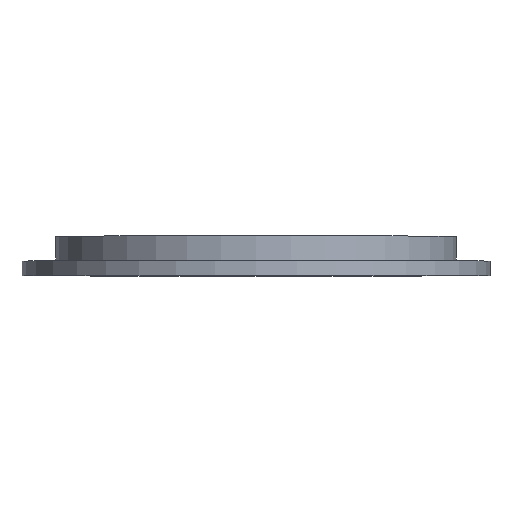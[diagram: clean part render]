
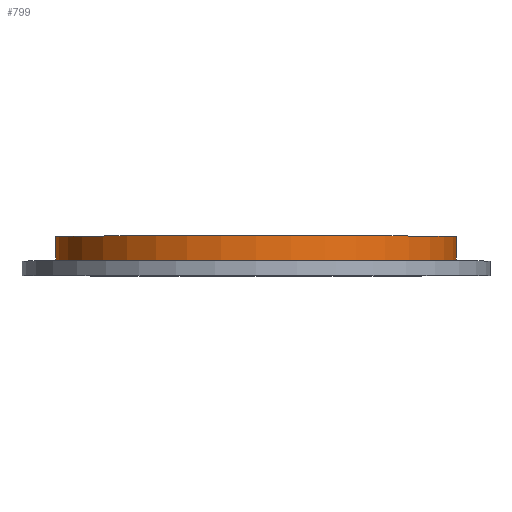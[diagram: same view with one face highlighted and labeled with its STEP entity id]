
A CAD part, top view. The second image highlights one B-rep face of the part: STEP entity #799.
In plain terms, the highlighted cylindrical face has radius 13.7 mm (diameter 27.4 mm), a full revolution.
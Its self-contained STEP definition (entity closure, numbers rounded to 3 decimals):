
#115=FACE_OUTER_BOUND('',#153,.T.);
#153=EDGE_LOOP('',(#657,#658,#659,#660));
#255=LINE('',#1376,#289);
#289=VECTOR('',#1161,13.7);
#355=CIRCLE('',#922,13.7);
#356=CIRCLE('',#923,13.7);
#423=VERTEX_POINT('',#1373);
#424=VERTEX_POINT('',#1375);
#523=EDGE_CURVE('',#423,#423,#355,.T.);
#524=EDGE_CURVE('',#423,#424,#255,.T.);
#525=EDGE_CURVE('',#424,#424,#356,.T.);
#657=ORIENTED_EDGE('',*,*,#523,.F.);
#658=ORIENTED_EDGE('',*,*,#524,.T.);
#659=ORIENTED_EDGE('',*,*,#525,.F.);
#660=ORIENTED_EDGE('',*,*,#524,.F.);
#765=CYLINDRICAL_SURFACE('',#921,13.7);
#799=ADVANCED_FACE('',(#115),#765,.T.);
#921=AXIS2_PLACEMENT_3D('',#1372,#1157,#1158);
#922=AXIS2_PLACEMENT_3D('',#1374,#1159,#1160);
#923=AXIS2_PLACEMENT_3D('',#1377,#1162,#1163);
#1157=DIRECTION('center_axis',(0.,1.,0.));
#1158=DIRECTION('ref_axis',(1.,0.,0.));
#1159=DIRECTION('center_axis',(0.,1.,0.));
#1160=DIRECTION('ref_axis',(1.,0.,0.));
#1161=DIRECTION('',(0.,-1.,0.));
#1162=DIRECTION('center_axis',(0.,-1.,0.));
#1163=DIRECTION('ref_axis',(1.,0.,0.));
#1372=CARTESIAN_POINT('Origin',(0.,1.,0.));
#1373=CARTESIAN_POINT('',(-13.7,2.7,0.));
#1374=CARTESIAN_POINT('Origin',(0.,2.7,0.));
#1375=CARTESIAN_POINT('',(-13.7,1.,0.));
#1376=CARTESIAN_POINT('',(-13.7,1.,0.));
#1377=CARTESIAN_POINT('Origin',(0.,1.,0.));
